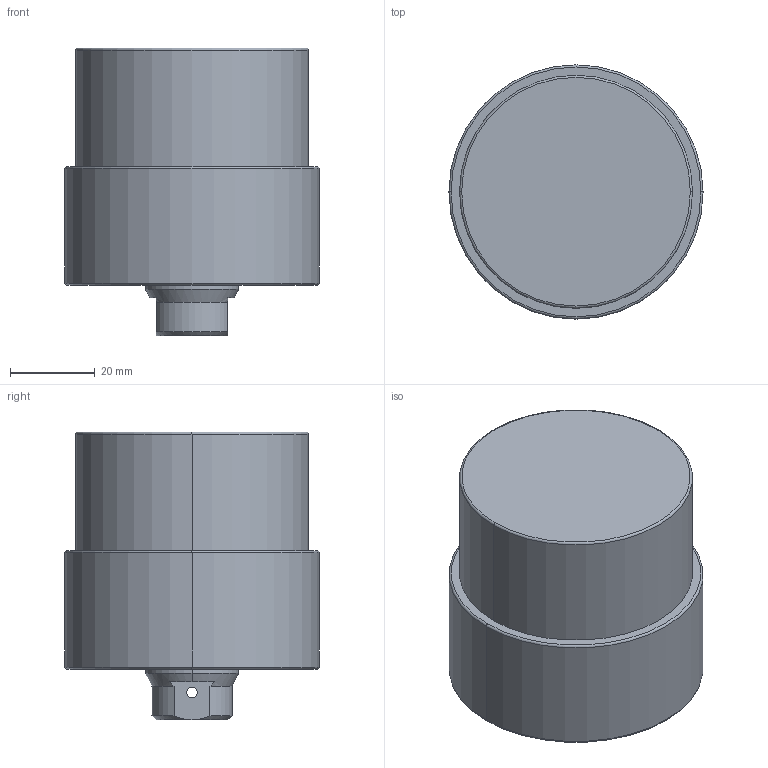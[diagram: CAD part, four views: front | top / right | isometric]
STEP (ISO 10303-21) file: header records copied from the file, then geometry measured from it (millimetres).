
FILE_DESCRIPTION (( 'STEP AP203' ), '1' );
FILE_NAME ('CLLU055-CB-(01-014).STEP', '2017-05-12T11:17:39', ( '' ), ( '' ), 'SwSTEP 2.0', 'SolidWorks 2015', '' );
FILE_SCHEMA (( 'CONFIG_CONTROL_DESIGN' ));
Length unit declared in the file: millimetre
Products named in the file (1): CLLU055-CB-(01-014)
Bounding box: 60 x 60 x 68 mm (x, y, z)
Volume: 145982.1 mm3; surface area: 18209.2 mm2
Topology: 1 solids, 1 shells, 66 faces, 152 edges, 85 vertices
Faces by surface type: cylinder 26, cone 24, plane 10, torus 6
Entity records: 1971 total; most frequent: CARTESIAN_POINT 414, DIRECTION 340, ORIENTED_EDGE 284, AXIS2_PLACEMENT_3D 143, EDGE_CURVE 142, VERTEX_POINT 85, EDGE_LOOP 77, CIRCLE 76
